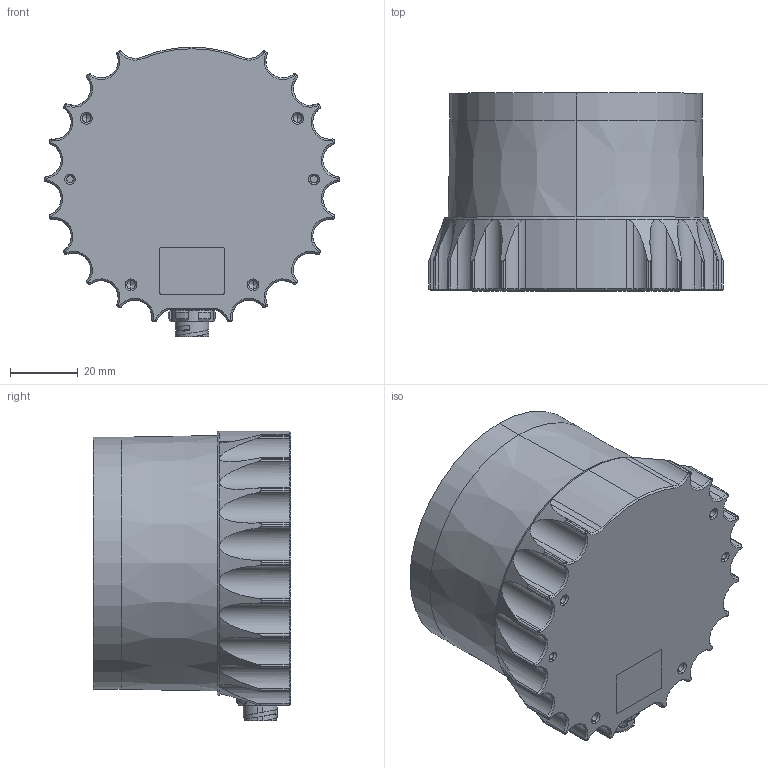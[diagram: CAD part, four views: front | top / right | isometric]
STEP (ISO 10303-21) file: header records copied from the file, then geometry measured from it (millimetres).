
FILE_DESCRIPTION (( 'STEP AP214' ), '1' );
FILE_NAME ('840-102145-D-SensorAssemblyOS1_FlatCap.STEP', '2020-12-14T19:15:36', ( '' ), ( '' ), 'SwSTEP 2.0', 'SolidWorks 2020', '' );
FILE_SCHEMA (( 'AUTOMOTIVE_DESIGN' ));
Length unit declared in the file: millimetre
Products named in the file (1): 840-102145-D-SensorAssemblyOS1_FlatCap
Bounding box: 87 x 58.35 x 85.52 mm (x, y, z)
Volume: 269853.7 mm3; surface area: 26780.8 mm2
Topology: 1 solids, 1 shells, 946 faces, 2328 edges, 1414 vertices
Faces by surface type: cone 341, cylinder 274, plane 257, bspline 64, torus 8, sphere 2
Entity records: 41668 total; most frequent: CARTESIAN_POINT 16863, ORIENTED_EDGE 4526, DIRECTION 4281, EDGE_CURVE 2263, AXIS2_PLACEMENT_3D 1675, VERTEX_POINT 1414, EDGE_LOOP 1041, FACE_OUTER_BOUND 946
